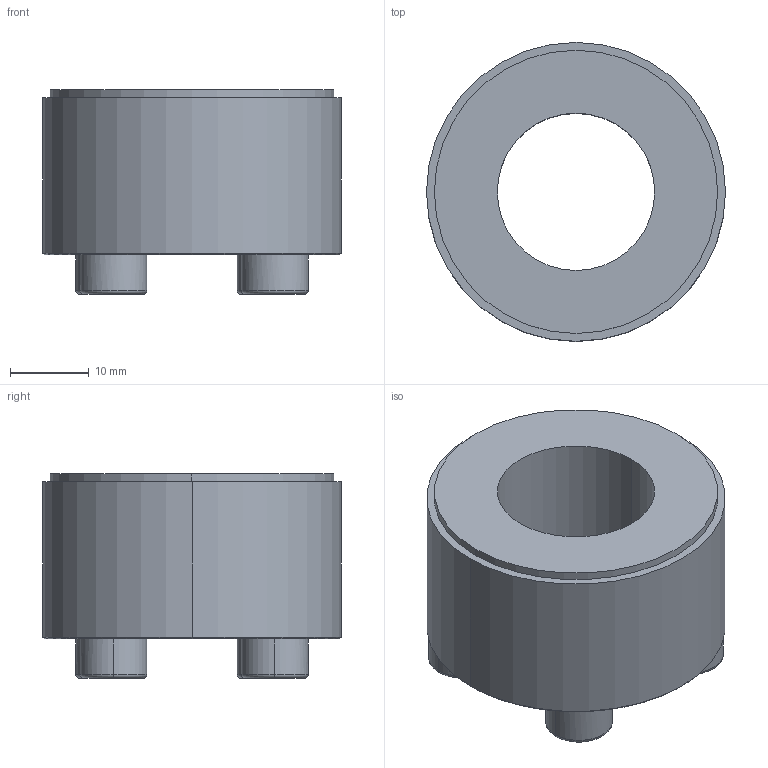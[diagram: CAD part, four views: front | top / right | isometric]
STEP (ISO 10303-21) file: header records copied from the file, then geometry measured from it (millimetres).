
FILE_DESCRIPTION (( 'STEP AP203' ), '1' );
FILE_NAME ('PL-B 20-38.STEP', '2021-10-22T07:46:15', ( '' ), ( '' ), 'SwSTEP 2.0', 'SolidWorks 2018', '' );
FILE_SCHEMA (( 'CONFIG_CONTROL_DESIGN' ));
Length unit declared in the file: millimetre
Products named in the file (1): PL-B 20-38
Bounding box: 38 x 38 x 26 mm (x, y, z)
Volume: 18089.9 mm3; surface area: 6088 mm2
Topology: 1 solids, 1 shells, 61 faces, 138 edges, 88 vertices
Faces by surface type: plane 35, cylinder 14, torus 8, cone 4
Entity records: 1785 total; most frequent: DIRECTION 310, CARTESIAN_POINT 288, ORIENTED_EDGE 276, EDGE_CURVE 138, AXIS2_PLACEMENT_3D 110, VECTOR 90, LINE 90, VERTEX_POINT 88
